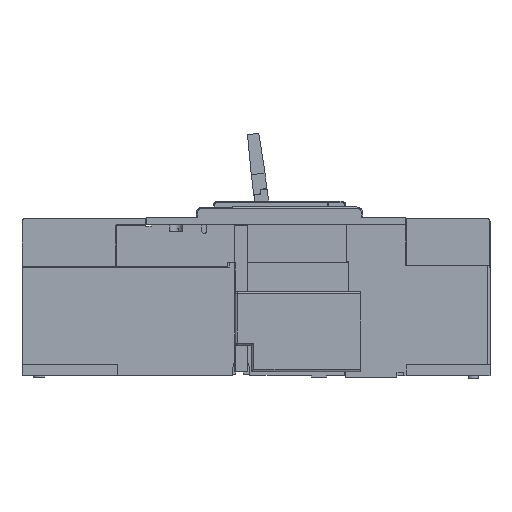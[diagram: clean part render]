
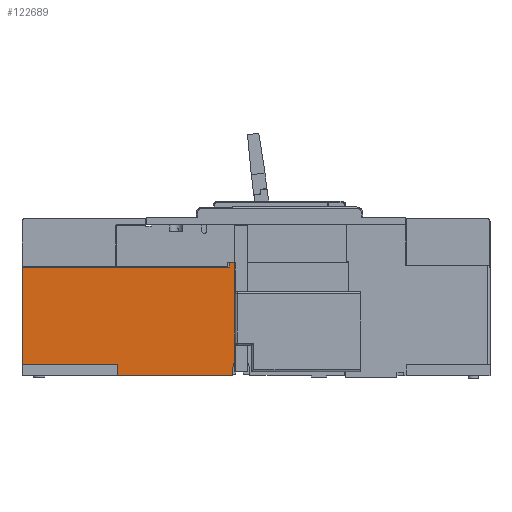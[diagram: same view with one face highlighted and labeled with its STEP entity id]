
A CAD part, left-side view. The second image highlights one B-rep face of the part: STEP entity #122689.
In plain terms, the highlighted planar face has unit normal (-1, 0, 0).
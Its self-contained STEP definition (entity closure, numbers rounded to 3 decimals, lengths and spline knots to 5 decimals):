
#99206=DIRECTION('',(0.,-1.,0.));
#99207=VECTOR('',#99206,0.005);
#99208=CARTESIAN_POINT('',(0.00239,0.17945,
0.11931));
#99209=LINE('',#99208,#99207);
#106622=DIRECTION('',(0.,0.,1.));
#106623=VECTOR('',#106622,0.0847);
#106624=CARTESIAN_POINT('',(0.00239,0.35995,
0.03061));
#106625=LINE('',#106624,#106623);
#106642=DIRECTION('',(0.,1.,0.));
#106643=VECTOR('',#106642,0.0835);
#106644=CARTESIAN_POINT('',(0.00239,0.27645,
0.03061));
#106645=LINE('',#106644,#106643);
#106650=DIRECTION('',(0.,0.,1.));
#106651=VECTOR('',#106650,0.0098);
#106652=CARTESIAN_POINT('',(0.00239,0.27645,
0.02081));
#106653=LINE('',#106652,#106651);
#106658=DIRECTION('',(0.,-0.071,0.997));
#106659=VECTOR('',#106658,0.00702);
#106660=CARTESIAN_POINT('',(0.00239,0.1767,
0.02081));
#106661=LINE('',#106660,#106659);
#106662=DIRECTION('',(0.,-1.,0.));
#106663=VECTOR('',#106662,0.09975);
#106664=CARTESIAN_POINT('',(0.00239,0.27645,
0.02081));
#106665=LINE('',#106664,#106663);
#106666=DIRECTION('',(0.,-0.27,0.963));
#106667=VECTOR('',#106666,0.00649);
#106668=CARTESIAN_POINT('',(0.00239,0.1762,
0.02781));
#106669=LINE('',#106668,#106667);
#106678=DIRECTION('',(0.,0.,-1.));
#106679=VECTOR('',#106678,0.08525);
#106680=CARTESIAN_POINT('',(0.00239,0.17445,
0.11931));
#106681=LINE('',#106680,#106679);
#106878=DIRECTION('',(0.,-1.,0.));
#106879=VECTOR('',#106878,0.1805);
#106880=CARTESIAN_POINT('',(0.00239,0.35995,
0.11531));
#106881=LINE('',#106880,#106879);
#106900=DIRECTION('',(0.,0.,1.));
#106901=VECTOR('',#106900,0.004);
#106902=CARTESIAN_POINT('',(0.00239,0.17945,
0.11531));
#106903=LINE('',#106902,#106901);
#108800=CARTESIAN_POINT('',(0.00239,0.17445,
0.03406));
#108802=VERTEX_POINT('',#108800);
#109714=CARTESIAN_POINT('',(0.00239,0.27645,
0.02081));
#109715=CARTESIAN_POINT('',(0.00239,0.27645,
0.03061));
#109716=VERTEX_POINT('',#109714);
#109717=VERTEX_POINT('',#109715);
#109720=CARTESIAN_POINT('',(0.00239,0.35995,
0.03061));
#109721=VERTEX_POINT('',#109720);
#109725=CARTESIAN_POINT('',(0.00239,0.35995,
0.11531));
#109727=VERTEX_POINT('',#109725);
#109802=CARTESIAN_POINT('',(0.00239,0.17445,
0.11931));
#109803=VERTEX_POINT('',#109802);
#109804=CARTESIAN_POINT('',(0.00239,0.17945,
0.11931));
#109805=VERTEX_POINT('',#109804);
#109812=CARTESIAN_POINT('',(0.00239,0.17945,
0.11531));
#109813=VERTEX_POINT('',#109812);
#110034=CARTESIAN_POINT('',(0.00239,0.1767,
0.02081));
#110035=VERTEX_POINT('',#110034);
#110062=CARTESIAN_POINT('',(0.00239,0.1762,
0.02781));
#110063=VERTEX_POINT('',#110062);
#122667=CARTESIAN_POINT('',(0.00239,0.07495,
0.02481));
#122668=DIRECTION('',(-1.,0.,0.));
#122669=DIRECTION('',(0.,0.,1.));
#122670=AXIS2_PLACEMENT_3D('',#122667,#122668,#122669);
#122671=PLANE('',#122670);
#122673=ORIENTED_EDGE('',*,*,#122672,.F.);
#122674=ORIENTED_EDGE('',*,*,#113534,.F.);
#122675=ORIENTED_EDGE('',*,*,#122661,.T.);
#122676=ORIENTED_EDGE('',*,*,#122649,.T.);
#122677=ORIENTED_EDGE('',*,*,#122619,.T.);
#122679=ORIENTED_EDGE('',*,*,#122678,.T.);
#122681=ORIENTED_EDGE('',*,*,#122680,.T.);
#122682=ORIENTED_EDGE('',*,*,#112725,.T.);
#122684=ORIENTED_EDGE('',*,*,#122683,.T.);
#122686=ORIENTED_EDGE('',*,*,#122685,.F.);
#122687=EDGE_LOOP('',(#122673,#122674,#122675,#122676,#122677,#122679,#122681,
#122682,#122684,#122686));
#122688=FACE_OUTER_BOUND('',#122687,.F.);
#122689=ADVANCED_FACE('',(#122688),#122671,.T.);
#112725=EDGE_CURVE('',#109805,#109803,#99209,.T.);
#113534=EDGE_CURVE('',#109716,#110035,#106665,.T.);
#122619=EDGE_CURVE('',#109721,#109727,#106625,.T.);
#122649=EDGE_CURVE('',#109717,#109721,#106645,.T.);
#122661=EDGE_CURVE('',#109716,#109717,#106653,.T.);
#122672=EDGE_CURVE('',#110035,#110063,#106661,.T.);
#122678=EDGE_CURVE('',#109727,#109813,#106881,.T.);
#122680=EDGE_CURVE('',#109813,#109805,#106903,.T.);
#122683=EDGE_CURVE('',#109803,#108802,#106681,.T.);
#122685=EDGE_CURVE('',#110063,#108802,#106669,.T.);
